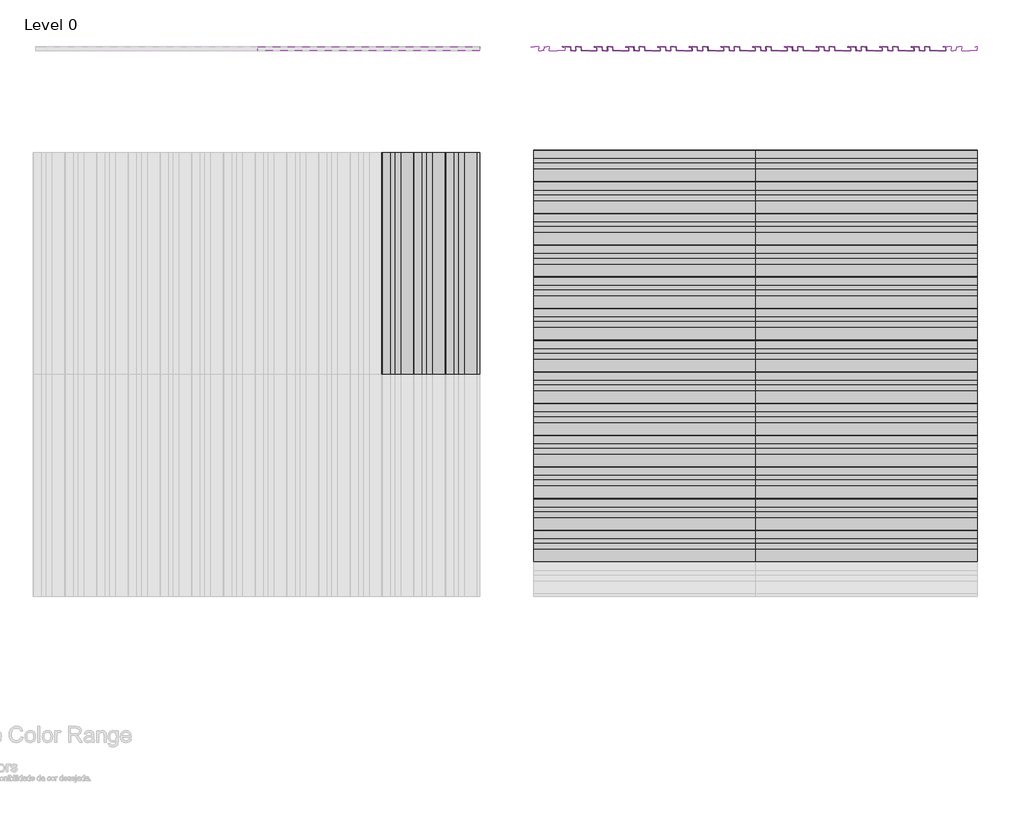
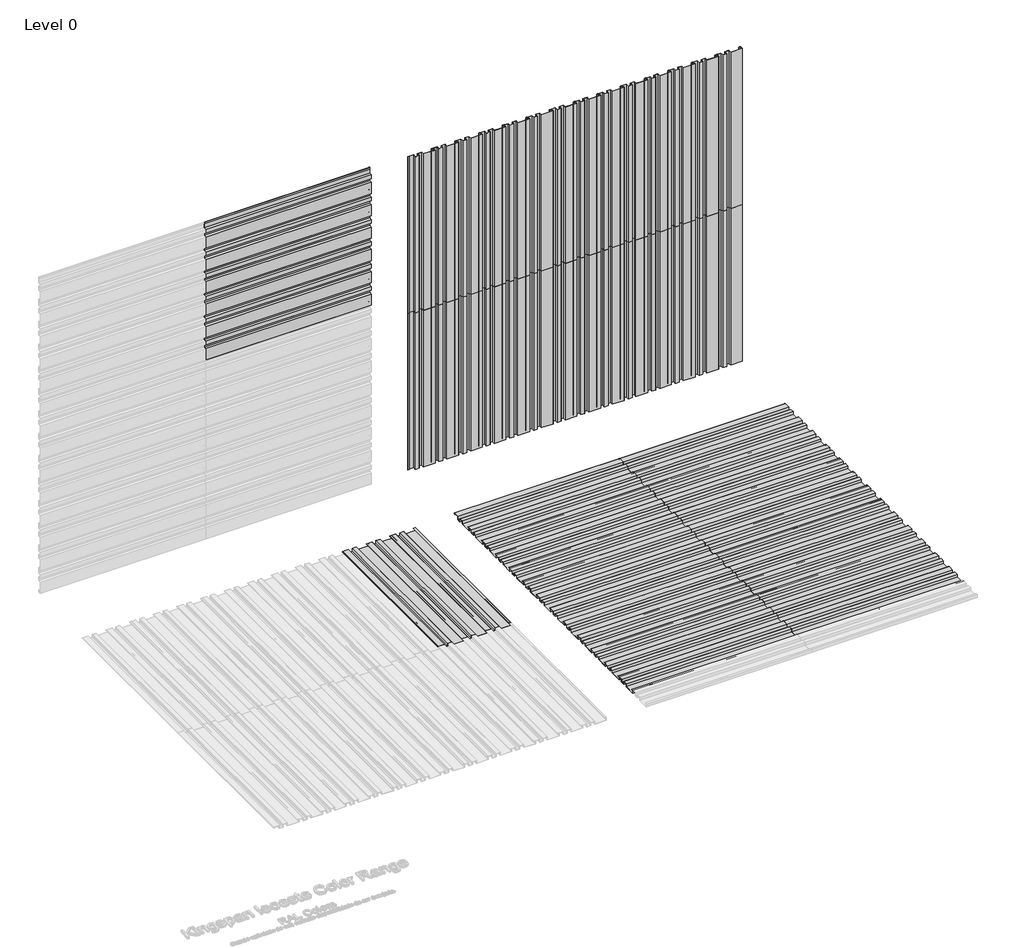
# One storey, part 2 of 2: 63 proxies.
"""IFC4 building model written with IfcOpenShell, lengths in millimetres."""

from ifc_helpers import new_model, si_unit, origin, place, context, project, spatial, transform, mapped, element, save
from components import mx2_0_standard_panel_ns_31f8ef59, mx2_0_standard_panel_ns_8073d0a4

model = new_model("IFC4")

# Units and contexts
model_context = context("Model", 3, world=origin())
ifc_project = project(units=[si_unit("LENGTHUNIT", "METRE", prefix="MILLI")], contexts=[model_context])

# Site, building, storey
site = spatial("IfcSite", under=ifc_project)
building = spatial("IfcBuilding", under=site)
storey = spatial("IfcBuildingStorey", under=building, Name="Level 0", Elevation=0.0)

# Proxies
placement = place(None, origin())
mx2_0_standard_panel_ns_shape = mx2_0_standard_panel_ns_31f8ef59(model_context)
element("IfcBuildingElementProxy", 1, Name="MX2.0 : Standard Panel_NS", ObjectType="MX2.0 : Standard Panel_NS", at=placement, inside=storey, context=model_context, shape_type="MappedRepresentation", body=[
    mapped(mx2_0_standard_panel_ns_shape, transform((2789.7088665, 5063.0274074, 0.0), x_axis=(0.0, 0.0, 1.0), y_axis=(-1.0, 0.0, 0.0), z_axis=(0.0, -1.0, 0.0))),
])
element("IfcBuildingElementProxy", 2, Name="MX2.0 : Standard Panel_NS", ObjectType="MX2.0 : Standard Panel_NS", at=placement, inside=storey, context=model_context, shape_type="MappedRepresentation", body=[
    mapped(mx2_0_standard_panel_ns_shape, transform((2789.7088665, 5063.0274074, 2100.0), x_axis=(0.0, 0.0, 1.0), y_axis=(-1.0, 0.0, 0.0), z_axis=(0.0, -1.0, 0.0))),
])
element("IfcBuildingElementProxy", 3, Name="MX2.0 : Standard Panel_NS", ObjectType="MX2.0 : Standard Panel_NS", at=placement, inside=storey, context=model_context, shape_type="MappedRepresentation", body=[
    mapped(mx2_0_standard_panel_ns_shape, transform((-1317.7637295, 5063.0274074, 2700.0), x_axis=(1.0, 0.0, 0.0), y_axis=(0.0, 0.0, 1.0), z_axis=(0.0, -1.0, 0.0))),
])
element("IfcBuildingElementProxy", 4, Name="MX2.0 : Standard Panel_NS", ObjectType="MX2.0 : Standard Panel_NS", at=placement, inside=storey, context=model_context, shape_type="MappedRepresentation", body=[
    mapped(mx2_0_standard_panel_ns_shape, transform((5189.7088665, 5063.0274074, 0.0), x_axis=(0.0, 0.0, 1.0), y_axis=(-1.0, 0.0, 0.0), z_axis=(0.0, -1.0, 0.0))),
])
element("IfcBuildingElementProxy", 5, Name="MX2.0 : Standard Panel_NS", ObjectType="MX2.0 : Standard Panel_NS", at=placement, inside=storey, context=model_context, shape_type="MappedRepresentation", body=[
    mapped(mx2_0_standard_panel_ns_shape, transform((5189.7088665, 5063.0274074, 2100.0), x_axis=(0.0, 0.0, 1.0), y_axis=(-1.0, 0.0, 0.0), z_axis=(0.0, -1.0, 0.0))),
])
mx2_0_standard_panel_ns_2_shape = mx2_0_standard_panel_ns_8073d0a4(model_context)
element("IfcBuildingElementProxy", 6, Name="MX2.0 : Standard Panel_NS", ObjectType="MX2.0 : Standard Panel_NS", at=placement, inside=storey, context=model_context, shape_type="MappedRepresentation", body=[
    mapped(mx2_0_standard_panel_ns_2_shape, transform((1289.7088668, 158.3113453, 0.0), x_axis=(1.0, 0.0, 0.0), y_axis=(0.0, 1.0, 0.0), z_axis=(0.0, 0.0, 1.0))),
])
element("IfcBuildingElementProxy", 7, Name="MX2.0 : Standard Panel_NS", ObjectType="MX2.0 : Standard Panel_NS", at=placement, inside=storey, context=model_context, shape_type="MappedRepresentation", body=[
    mapped(mx2_0_standard_panel_ns_2_shape, transform((1289.7088668, 2558.3113453, 0.0), x_axis=(1.0, 0.0, 0.0), y_axis=(0.0, 1.0, 0.0), z_axis=(0.0, 0.0, 1.0))),
])
element("IfcBuildingElementProxy", 8, Name="MX2.0 : Standard Panel_NS", ObjectType="MX2.0 : Standard Panel_NS", at=placement, inside=storey, context=model_context, shape_type="MappedRepresentation", body=[
    mapped(mx2_0_standard_panel_ns_2_shape, transform((482.2362703, 1958.3113453, 0.0), x_axis=(0.0, 1.0, 0.0), y_axis=(-1.0, 0.0, 0.0), z_axis=(0.0, 0.0, 1.0))),
])
element("IfcBuildingElementProxy", 9, Name="MX2.0 : Standard Panel_NS", ObjectType="MX2.0 : Standard Panel_NS", at=placement, inside=storey, context=model_context, shape_type="MappedRepresentation", body=[
    mapped(mx2_0_standard_panel_ns_2_shape, transform((3389.7088668, 158.3113453, 0.0), x_axis=(1.0, 0.0, 0.0), y_axis=(0.0, 1.0, 0.0), z_axis=(0.0, 0.0, 1.0))),
])
element("IfcBuildingElementProxy", 10, Name="MX2.0 : Standard Panel_NS", ObjectType="MX2.0 : Standard Panel_NS", at=placement, inside=storey, context=model_context, shape_type="MappedRepresentation", body=[
    mapped(mx2_0_standard_panel_ns_2_shape, transform((3389.7088668, 2558.3113453, 0.0), x_axis=(1.0, 0.0, 0.0), y_axis=(0.0, 1.0, 0.0), z_axis=(0.0, 0.0, 1.0))),
])
element("IfcBuildingElementProxy", 11, Name="MX2.0 : Standard Panel_NS", ObjectType="MX2.0 : Standard Panel_NS", at=placement, inside=storey, context=model_context, shape_type="MappedRepresentation", body=[
    mapped(mx2_0_standard_panel_ns_shape, transform((3089.7088665, 5063.0274074, 0.0), x_axis=(0.0, 0.0, 1.0), y_axis=(-1.0, 0.0, 0.0), z_axis=(0.0, -1.0, 0.0))),
])
element("IfcBuildingElementProxy", 12, Name="MX2.0 : Standard Panel_NS", ObjectType="MX2.0 : Standard Panel_NS", at=placement, inside=storey, context=model_context, shape_type="MappedRepresentation", body=[
    mapped(mx2_0_standard_panel_ns_shape, transform((3089.7088665, 5063.0274074, 2100.0), x_axis=(0.0, 0.0, 1.0), y_axis=(-1.0, 0.0, 0.0), z_axis=(0.0, -1.0, 0.0))),
])
element("IfcBuildingElementProxy", 13, Name="MX2.0 : Standard Panel_NS", ObjectType="MX2.0 : Standard Panel_NS", at=placement, inside=storey, context=model_context, shape_type="MappedRepresentation", body=[
    mapped(mx2_0_standard_panel_ns_shape, transform((-1317.7637295, 5063.0274074, 2400.0), x_axis=(1.0, 0.0, 0.0), y_axis=(0.0, 0.0, 1.0), z_axis=(0.0, -1.0, 0.0))),
])
element("IfcBuildingElementProxy", 14, Name="MX2.0 : Standard Panel_NS", ObjectType="MX2.0 : Standard Panel_NS", at=placement, inside=storey, context=model_context, shape_type="MappedRepresentation", body=[
    mapped(mx2_0_standard_panel_ns_shape, transform((5489.7088666, 5063.0274074, 0.0), x_axis=(0.0, 0.0, 1.0), y_axis=(-1.0, 0.0, 0.0), z_axis=(0.0, -1.0, 0.0))),
])
element("IfcBuildingElementProxy", 15, Name="MX2.0 : Standard Panel_NS", ObjectType="MX2.0 : Standard Panel_NS", at=placement, inside=storey, context=model_context, shape_type="MappedRepresentation", body=[
    mapped(mx2_0_standard_panel_ns_shape, transform((5489.7088666, 5063.0274074, 2100.0), x_axis=(0.0, 0.0, 1.0), y_axis=(-1.0, 0.0, 0.0), z_axis=(0.0, -1.0, 0.0))),
])
element("IfcBuildingElementProxy", 16, Name="MX2.0 : Standard Panel_NS", ObjectType="MX2.0 : Standard Panel_NS", at=placement, inside=storey, context=model_context, shape_type="MappedRepresentation", body=[
    mapped(mx2_0_standard_panel_ns_2_shape, transform((1289.7088668, 2258.3113453, 0.0), x_axis=(1.0, 0.0, 0.0), y_axis=(0.0, 1.0, 0.0), z_axis=(0.0, 0.0, 1.0))),
])
element("IfcBuildingElementProxy", 17, Name="MX2.0 : Standard Panel_NS", ObjectType="MX2.0 : Standard Panel_NS", at=placement, inside=storey, context=model_context, shape_type="MappedRepresentation", body=[
    mapped(mx2_0_standard_panel_ns_2_shape, transform((782.2362705, 1958.3113453, 0.0), x_axis=(0.0, 1.0, 0.0), y_axis=(-1.0, 0.0, 0.0), z_axis=(0.0, 0.0, 1.0))),
])
element("IfcBuildingElementProxy", 18, Name="MX2.0 : Standard Panel_NS", ObjectType="MX2.0 : Standard Panel_NS", at=placement, inside=storey, context=model_context, shape_type="MappedRepresentation", body=[
    mapped(mx2_0_standard_panel_ns_2_shape, transform((3389.7088668, 2258.3113453, 0.0), x_axis=(1.0, 0.0, 0.0), y_axis=(0.0, 1.0, 0.0), z_axis=(0.0, 0.0, 1.0))),
])
element("IfcBuildingElementProxy", 19, Name="MX2.0 : Standard Panel_NS", ObjectType="MX2.0 : Standard Panel_NS", at=placement, inside=storey, context=model_context, shape_type="MappedRepresentation", body=[
    mapped(mx2_0_standard_panel_ns_2_shape, transform((1289.7088668, 1358.3113453, 0.0), x_axis=(1.0, 0.0, 0.0), y_axis=(0.0, 1.0, 0.0), z_axis=(0.0, 0.0, 1.0))),
])
element("IfcBuildingElementProxy", 20, Name="MX2.0 : Standard Panel_NS", ObjectType="MX2.0 : Standard Panel_NS", at=placement, inside=storey, context=model_context, shape_type="MappedRepresentation", body=[
    mapped(mx2_0_standard_panel_ns_2_shape, transform((1289.7088668, 3758.3113453, 0.0), x_axis=(1.0, 0.0, 0.0), y_axis=(0.0, 1.0, 0.0), z_axis=(0.0, 0.0, 1.0))),
])
element("IfcBuildingElementProxy", 21, Name="MX2.0 : Standard Panel_NS", ObjectType="MX2.0 : Standard Panel_NS", at=placement, inside=storey, context=model_context, shape_type="MappedRepresentation", body=[
    mapped(mx2_0_standard_panel_ns_2_shape, transform((3389.7088668, 1358.3113453, 0.0), x_axis=(1.0, 0.0, 0.0), y_axis=(0.0, 1.0, 0.0), z_axis=(0.0, 0.0, 1.0))),
])
element("IfcBuildingElementProxy", 22, Name="MX2.0 : Standard Panel_NS", ObjectType="MX2.0 : Standard Panel_NS", at=placement, inside=storey, context=model_context, shape_type="MappedRepresentation", body=[
    mapped(mx2_0_standard_panel_ns_2_shape, transform((3389.7088668, 3758.3113453, 0.0), x_axis=(1.0, 0.0, 0.0), y_axis=(0.0, 1.0, 0.0), z_axis=(0.0, 0.0, 1.0))),
])
element("IfcBuildingElementProxy", 23, Name="MX2.0 : Standard Panel_NS", ObjectType="MX2.0 : Standard Panel_NS", at=placement, inside=storey, context=model_context, shape_type="MappedRepresentation", body=[
    mapped(mx2_0_standard_panel_ns_shape, transform((1589.7088666, 5063.0274074, 0.0), x_axis=(0.0, 0.0, 1.0), y_axis=(-1.0, 0.0, 0.0), z_axis=(0.0, -1.0, 0.0))),
])
element("IfcBuildingElementProxy", 24, Name="MX2.0 : Standard Panel_NS", ObjectType="MX2.0 : Standard Panel_NS", at=placement, inside=storey, context=model_context, shape_type="MappedRepresentation", body=[
    mapped(mx2_0_standard_panel_ns_shape, transform((1589.7088666, 5063.0274074, 2100.0), x_axis=(0.0, 0.0, 1.0), y_axis=(-1.0, 0.0, 0.0), z_axis=(0.0, -1.0, 0.0))),
])
element("IfcBuildingElementProxy", 25, Name="MX2.0 : Standard Panel_NS", ObjectType="MX2.0 : Standard Panel_NS", at=placement, inside=storey, context=model_context, shape_type="MappedRepresentation", body=[
    mapped(mx2_0_standard_panel_ns_shape, transform((-1317.7637295, 5063.0274074, 3900.0), x_axis=(1.0, 0.0, 0.0), y_axis=(0.0, 0.0, 1.0), z_axis=(0.0, -1.0, 0.0))),
])
element("IfcBuildingElementProxy", 26, Name="MX2.0 : Standard Panel_NS", ObjectType="MX2.0 : Standard Panel_NS", at=placement, inside=storey, context=model_context, shape_type="MappedRepresentation", body=[
    mapped(mx2_0_standard_panel_ns_shape, transform((3989.7088665, 5063.0274074, 0.0), x_axis=(0.0, 0.0, 1.0), y_axis=(-1.0, 0.0, 0.0), z_axis=(0.0, -1.0, 0.0))),
])
element("IfcBuildingElementProxy", 27, Name="MX2.0 : Standard Panel_NS", ObjectType="MX2.0 : Standard Panel_NS", at=placement, inside=storey, context=model_context, shape_type="MappedRepresentation", body=[
    mapped(mx2_0_standard_panel_ns_shape, transform((3989.7088665, 5063.0274074, 2100.0), x_axis=(0.0, 0.0, 1.0), y_axis=(-1.0, 0.0, 0.0), z_axis=(0.0, -1.0, 0.0))),
])
element("IfcBuildingElementProxy", 28, Name="MX2.0 : Standard Panel_NS", ObjectType="MX2.0 : Standard Panel_NS", at=placement, inside=storey, context=model_context, shape_type="MappedRepresentation", body=[
    mapped(mx2_0_standard_panel_ns_shape, transform((2489.7088665, 5063.0274074, 0.0), x_axis=(0.0, 0.0, 1.0), y_axis=(-1.0, 0.0, 0.0), z_axis=(0.0, -1.0, 0.0))),
])
element("IfcBuildingElementProxy", 29, Name="MX2.0 : Standard Panel_NS", ObjectType="MX2.0 : Standard Panel_NS", at=placement, inside=storey, context=model_context, shape_type="MappedRepresentation", body=[
    mapped(mx2_0_standard_panel_ns_shape, transform((2489.7088665, 5063.0274074, 2100.0), x_axis=(0.0, 0.0, 1.0), y_axis=(-1.0, 0.0, 0.0), z_axis=(0.0, -1.0, 0.0))),
])
element("IfcBuildingElementProxy", 30, Name="MX2.0 : Standard Panel_NS", ObjectType="MX2.0 : Standard Panel_NS", at=placement, inside=storey, context=model_context, shape_type="MappedRepresentation", body=[
    mapped(mx2_0_standard_panel_ns_shape, transform((-1317.7637295, 5063.0274074, 3000.0), x_axis=(1.0, 0.0, 0.0), y_axis=(0.0, 0.0, 1.0), z_axis=(0.0, -1.0, 0.0))),
])
element("IfcBuildingElementProxy", 31, Name="MX2.0 : Standard Panel_NS", ObjectType="MX2.0 : Standard Panel_NS", at=placement, inside=storey, context=model_context, shape_type="MappedRepresentation", body=[
    mapped(mx2_0_standard_panel_ns_shape, transform((4889.7088665, 5063.0274074, 0.0), x_axis=(0.0, 0.0, 1.0), y_axis=(-1.0, 0.0, 0.0), z_axis=(0.0, -1.0, 0.0))),
])
element("IfcBuildingElementProxy", 32, Name="MX2.0 : Standard Panel_NS", ObjectType="MX2.0 : Standard Panel_NS", at=placement, inside=storey, context=model_context, shape_type="MappedRepresentation", body=[
    mapped(mx2_0_standard_panel_ns_shape, transform((4889.7088665, 5063.0274074, 2100.0), x_axis=(0.0, 0.0, 1.0), y_axis=(-1.0, 0.0, 0.0), z_axis=(0.0, -1.0, 0.0))),
])
element("IfcBuildingElementProxy", 33, Name="MX2.0 : Standard Panel_NS", ObjectType="MX2.0 : Standard Panel_NS", at=placement, inside=storey, context=model_context, shape_type="MappedRepresentation", body=[
    mapped(mx2_0_standard_panel_ns_shape, transform((2189.7088665, 5063.0274074, 0.0), x_axis=(0.0, 0.0, 1.0), y_axis=(-1.0, 0.0, 0.0), z_axis=(0.0, -1.0, 0.0))),
])
element("IfcBuildingElementProxy", 34, Name="MX2.0 : Standard Panel_NS", ObjectType="MX2.0 : Standard Panel_NS", at=placement, inside=storey, context=model_context, shape_type="MappedRepresentation", body=[
    mapped(mx2_0_standard_panel_ns_shape, transform((2189.7088665, 5063.0274074, 2100.0), x_axis=(0.0, 0.0, 1.0), y_axis=(-1.0, 0.0, 0.0), z_axis=(0.0, -1.0, 0.0))),
])
element("IfcBuildingElementProxy", 35, Name="MX2.0 : Standard Panel_NS", ObjectType="MX2.0 : Standard Panel_NS", at=placement, inside=storey, context=model_context, shape_type="MappedRepresentation", body=[
    mapped(mx2_0_standard_panel_ns_shape, transform((-1317.7637295, 5063.0274074, 3300.0), x_axis=(1.0, 0.0, 0.0), y_axis=(0.0, 0.0, 1.0), z_axis=(0.0, -1.0, 0.0))),
])
element("IfcBuildingElementProxy", 36, Name="MX2.0 : Standard Panel_NS", ObjectType="MX2.0 : Standard Panel_NS", at=placement, inside=storey, context=model_context, shape_type="MappedRepresentation", body=[
    mapped(mx2_0_standard_panel_ns_shape, transform((4589.7088665, 5063.0274074, 0.0), x_axis=(0.0, 0.0, 1.0), y_axis=(-1.0, 0.0, 0.0), z_axis=(0.0, -1.0, 0.0))),
])
element("IfcBuildingElementProxy", 37, Name="MX2.0 : Standard Panel_NS", ObjectType="MX2.0 : Standard Panel_NS", at=placement, inside=storey, context=model_context, shape_type="MappedRepresentation", body=[
    mapped(mx2_0_standard_panel_ns_shape, transform((4589.7088665, 5063.0274074, 2100.0), x_axis=(0.0, 0.0, 1.0), y_axis=(-1.0, 0.0, 0.0), z_axis=(0.0, -1.0, 0.0))),
])
element("IfcBuildingElementProxy", 38, Name="MX2.0 : Standard Panel_NS", ObjectType="MX2.0 : Standard Panel_NS", at=placement, inside=storey, context=model_context, shape_type="MappedRepresentation", body=[
    mapped(mx2_0_standard_panel_ns_shape, transform((1889.7088665, 5063.0274074, 0.0), x_axis=(0.0, 0.0, 1.0), y_axis=(-1.0, 0.0, 0.0), z_axis=(0.0, -1.0, 0.0))),
])
element("IfcBuildingElementProxy", 39, Name="MX2.0 : Standard Panel_NS", ObjectType="MX2.0 : Standard Panel_NS", at=placement, inside=storey, context=model_context, shape_type="MappedRepresentation", body=[
    mapped(mx2_0_standard_panel_ns_shape, transform((1889.7088665, 5063.0274074, 2100.0), x_axis=(0.0, 0.0, 1.0), y_axis=(-1.0, 0.0, 0.0), z_axis=(0.0, -1.0, 0.0))),
])
element("IfcBuildingElementProxy", 40, Name="MX2.0 : Standard Panel_NS", ObjectType="MX2.0 : Standard Panel_NS", at=placement, inside=storey, context=model_context, shape_type="MappedRepresentation", body=[
    mapped(mx2_0_standard_panel_ns_shape, transform((-1317.7637295, 5063.0274074, 3600.0), x_axis=(1.0, 0.0, 0.0), y_axis=(0.0, 0.0, 1.0), z_axis=(0.0, -1.0, 0.0))),
])
element("IfcBuildingElementProxy", 41, Name="MX2.0 : Standard Panel_NS", ObjectType="MX2.0 : Standard Panel_NS", at=placement, inside=storey, context=model_context, shape_type="MappedRepresentation", body=[
    mapped(mx2_0_standard_panel_ns_shape, transform((4289.7088665, 5063.0274074, 0.0), x_axis=(0.0, 0.0, 1.0), y_axis=(-1.0, 0.0, 0.0), z_axis=(0.0, -1.0, 0.0))),
])
element("IfcBuildingElementProxy", 42, Name="MX2.0 : Standard Panel_NS", ObjectType="MX2.0 : Standard Panel_NS", at=placement, inside=storey, context=model_context, shape_type="MappedRepresentation", body=[
    mapped(mx2_0_standard_panel_ns_shape, transform((4289.7088665, 5063.0274074, 2100.0), x_axis=(0.0, 0.0, 1.0), y_axis=(-1.0, 0.0, 0.0), z_axis=(0.0, -1.0, 0.0))),
])
element("IfcBuildingElementProxy", 43, Name="MX2.0 : Standard Panel_NS", ObjectType="MX2.0 : Standard Panel_NS", at=placement, inside=storey, context=model_context, shape_type="MappedRepresentation", body=[
    mapped(mx2_0_standard_panel_ns_shape, transform((3689.7088665, 5063.0274074, 0.0), x_axis=(0.0, 0.0, 1.0), y_axis=(-1.0, 0.0, 0.0), z_axis=(0.0, -1.0, 0.0))),
])
element("IfcBuildingElementProxy", 44, Name="MX2.0 : Standard Panel_NS", ObjectType="MX2.0 : Standard Panel_NS", at=placement, inside=storey, context=model_context, shape_type="MappedRepresentation", body=[
    mapped(mx2_0_standard_panel_ns_shape, transform((3689.7088665, 5063.0274074, 2100.0), x_axis=(0.0, 0.0, 1.0), y_axis=(-1.0, 0.0, 0.0), z_axis=(0.0, -1.0, 0.0))),
])
element("IfcBuildingElementProxy", 45, Name="MX2.0 : Standard Panel_NS", ObjectType="MX2.0 : Standard Panel_NS", at=placement, inside=storey, context=model_context, shape_type="MappedRepresentation", body=[
    mapped(mx2_0_standard_panel_ns_shape, transform((3389.7088665, 5063.0274074, 0.0), x_axis=(0.0, 0.0, 1.0), y_axis=(-1.0, 0.0, 0.0), z_axis=(0.0, -1.0, 0.0))),
])
element("IfcBuildingElementProxy", 46, Name="MX2.0 : Standard Panel_NS", ObjectType="MX2.0 : Standard Panel_NS", at=placement, inside=storey, context=model_context, shape_type="MappedRepresentation", body=[
    mapped(mx2_0_standard_panel_ns_shape, transform((3389.7088665, 5063.0274074, 2100.0), x_axis=(0.0, 0.0, 1.0), y_axis=(-1.0, 0.0, 0.0), z_axis=(0.0, -1.0, 0.0))),
])
element("IfcBuildingElementProxy", 47, Name="MX2.0 : Standard Panel_NS", ObjectType="MX2.0 : Standard Panel_NS", at=placement, inside=storey, context=model_context, shape_type="MappedRepresentation", body=[
    mapped(mx2_0_standard_panel_ns_2_shape, transform((1289.7088668, 458.3113453, 0.0), x_axis=(1.0, 0.0, 0.0), y_axis=(0.0, 1.0, 0.0), z_axis=(0.0, 0.0, 1.0))),
])
element("IfcBuildingElementProxy", 48, Name="MX2.0 : Standard Panel_NS", ObjectType="MX2.0 : Standard Panel_NS", at=placement, inside=storey, context=model_context, shape_type="MappedRepresentation", body=[
    mapped(mx2_0_standard_panel_ns_2_shape, transform((1289.7088668, 2858.3113453, 0.0), x_axis=(1.0, 0.0, 0.0), y_axis=(0.0, 1.0, 0.0), z_axis=(0.0, 0.0, 1.0))),
])
element("IfcBuildingElementProxy", 49, Name="MX2.0 : Standard Panel_NS", ObjectType="MX2.0 : Standard Panel_NS", at=placement, inside=storey, context=model_context, shape_type="MappedRepresentation", body=[
    mapped(mx2_0_standard_panel_ns_2_shape, transform((182.2362703, 1958.3113453, 0.0), x_axis=(0.0, 1.0, 0.0), y_axis=(-1.0, 0.0, 0.0), z_axis=(0.0, 0.0, 1.0))),
])
element("IfcBuildingElementProxy", 50, Name="MX2.0 : Standard Panel_NS", ObjectType="MX2.0 : Standard Panel_NS", at=placement, inside=storey, context=model_context, shape_type="MappedRepresentation", body=[
    mapped(mx2_0_standard_panel_ns_2_shape, transform((3389.7088668, 458.3113453, 0.0), x_axis=(1.0, 0.0, 0.0), y_axis=(0.0, 1.0, 0.0), z_axis=(0.0, 0.0, 1.0))),
])
element("IfcBuildingElementProxy", 51, Name="MX2.0 : Standard Panel_NS", ObjectType="MX2.0 : Standard Panel_NS", at=placement, inside=storey, context=model_context, shape_type="MappedRepresentation", body=[
    mapped(mx2_0_standard_panel_ns_2_shape, transform((3389.7088668, 2858.3113453, 0.0), x_axis=(1.0, 0.0, 0.0), y_axis=(0.0, 1.0, 0.0), z_axis=(0.0, 0.0, 1.0))),
])
element("IfcBuildingElementProxy", 52, Name="MX2.0 : Standard Panel_NS", ObjectType="MX2.0 : Standard Panel_NS", at=placement, inside=storey, context=model_context, shape_type="MappedRepresentation", body=[
    mapped(mx2_0_standard_panel_ns_2_shape, transform((1289.7088668, 758.3113453, 0.0), x_axis=(1.0, 0.0, 0.0), y_axis=(0.0, 1.0, 0.0), z_axis=(0.0, 0.0, 1.0))),
])
element("IfcBuildingElementProxy", 53, Name="MX2.0 : Standard Panel_NS", ObjectType="MX2.0 : Standard Panel_NS", at=placement, inside=storey, context=model_context, shape_type="MappedRepresentation", body=[
    mapped(mx2_0_standard_panel_ns_2_shape, transform((1289.7088668, 3158.3113453, 0.0), x_axis=(1.0, 0.0, 0.0), y_axis=(0.0, 1.0, 0.0), z_axis=(0.0, 0.0, 1.0))),
])
element("IfcBuildingElementProxy", 54, Name="MX2.0 : Standard Panel_NS", ObjectType="MX2.0 : Standard Panel_NS", at=placement, inside=storey, context=model_context, shape_type="MappedRepresentation", body=[
    mapped(mx2_0_standard_panel_ns_2_shape, transform((3389.7088668, 758.3113453, 0.0), x_axis=(1.0, 0.0, 0.0), y_axis=(0.0, 1.0, 0.0), z_axis=(0.0, 0.0, 1.0))),
])
element("IfcBuildingElementProxy", 55, Name="MX2.0 : Standard Panel_NS", ObjectType="MX2.0 : Standard Panel_NS", at=placement, inside=storey, context=model_context, shape_type="MappedRepresentation", body=[
    mapped(mx2_0_standard_panel_ns_2_shape, transform((3389.7088668, 3158.3113453, 0.0), x_axis=(1.0, 0.0, 0.0), y_axis=(0.0, 1.0, 0.0), z_axis=(0.0, 0.0, 1.0))),
])
element("IfcBuildingElementProxy", 56, Name="MX2.0 : Standard Panel_NS", ObjectType="MX2.0 : Standard Panel_NS", at=placement, inside=storey, context=model_context, shape_type="MappedRepresentation", body=[
    mapped(mx2_0_standard_panel_ns_2_shape, transform((1289.7088668, 1058.3113453, 0.0), x_axis=(1.0, 0.0, 0.0), y_axis=(0.0, 1.0, 0.0), z_axis=(0.0, 0.0, 1.0))),
])
element("IfcBuildingElementProxy", 57, Name="MX2.0 : Standard Panel_NS", ObjectType="MX2.0 : Standard Panel_NS", at=placement, inside=storey, context=model_context, shape_type="MappedRepresentation", body=[
    mapped(mx2_0_standard_panel_ns_2_shape, transform((1289.7088668, 3458.3113453, 0.0), x_axis=(1.0, 0.0, 0.0), y_axis=(0.0, 1.0, 0.0), z_axis=(0.0, 0.0, 1.0))),
])
element("IfcBuildingElementProxy", 58, Name="MX2.0 : Standard Panel_NS", ObjectType="MX2.0 : Standard Panel_NS", at=placement, inside=storey, context=model_context, shape_type="MappedRepresentation", body=[
    mapped(mx2_0_standard_panel_ns_2_shape, transform((3389.7088668, 1058.3113453, 0.0), x_axis=(1.0, 0.0, 0.0), y_axis=(0.0, 1.0, 0.0), z_axis=(0.0, 0.0, 1.0))),
])
element("IfcBuildingElementProxy", 59, Name="MX2.0 : Standard Panel_NS", ObjectType="MX2.0 : Standard Panel_NS", at=placement, inside=storey, context=model_context, shape_type="MappedRepresentation", body=[
    mapped(mx2_0_standard_panel_ns_2_shape, transform((3389.7088668, 3458.3113453, 0.0), x_axis=(1.0, 0.0, 0.0), y_axis=(0.0, 1.0, 0.0), z_axis=(0.0, 0.0, 1.0))),
])
element("IfcBuildingElementProxy", 60, Name="MX2.0 : Standard Panel_NS", ObjectType="MX2.0 : Standard Panel_NS", at=placement, inside=storey, context=model_context, shape_type="MappedRepresentation", body=[
    mapped(mx2_0_standard_panel_ns_2_shape, transform((1289.7088668, 1658.3113453, 0.0), x_axis=(1.0, 0.0, 0.0), y_axis=(0.0, 1.0, 0.0), z_axis=(0.0, 0.0, 1.0))),
])
element("IfcBuildingElementProxy", 61, Name="MX2.0 : Standard Panel_NS", ObjectType="MX2.0 : Standard Panel_NS", at=placement, inside=storey, context=model_context, shape_type="MappedRepresentation", body=[
    mapped(mx2_0_standard_panel_ns_2_shape, transform((3389.7088668, 1658.3113453, 0.0), x_axis=(1.0, 0.0, 0.0), y_axis=(0.0, 1.0, 0.0), z_axis=(0.0, 0.0, 1.0))),
])
element("IfcBuildingElementProxy", 62, Name="MX2.0 : Standard Panel_NS", ObjectType="MX2.0 : Standard Panel_NS", at=placement, inside=storey, context=model_context, shape_type="MappedRepresentation", body=[
    mapped(mx2_0_standard_panel_ns_2_shape, transform((1289.7088668, 1958.3113453, 0.0), x_axis=(1.0, 0.0, 0.0), y_axis=(0.0, 1.0, 0.0), z_axis=(0.0, 0.0, 1.0))),
])
element("IfcBuildingElementProxy", 63, Name="MX2.0 : Standard Panel_NS", ObjectType="MX2.0 : Standard Panel_NS", at=placement, inside=storey, context=model_context, shape_type="MappedRepresentation", body=[
    mapped(mx2_0_standard_panel_ns_2_shape, transform((3389.7088668, 1958.3113453, 0.0), x_axis=(1.0, 0.0, 0.0), y_axis=(0.0, 1.0, 0.0), z_axis=(0.0, 0.0, 1.0))),
])

save(model, "model.ifc")
